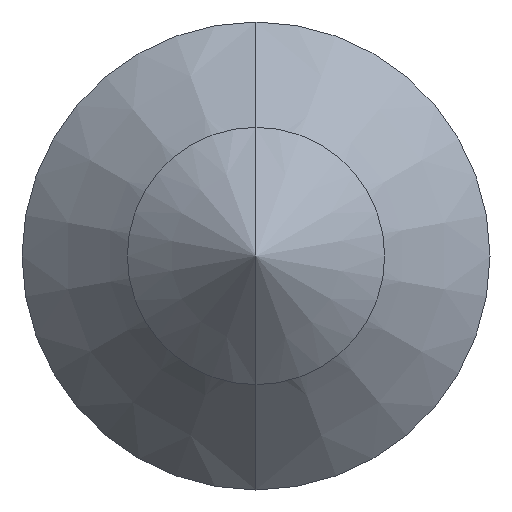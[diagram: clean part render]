
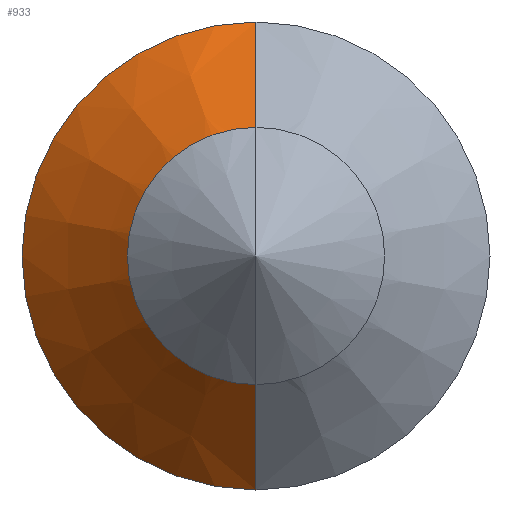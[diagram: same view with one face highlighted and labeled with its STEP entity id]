
A CAD part, left-side view. The second image highlights one B-rep face of the part: STEP entity #933.
In plain terms, the highlighted conical face has half-angle 45 degrees and reference radius 2 mm.
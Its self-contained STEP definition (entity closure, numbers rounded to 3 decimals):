
#39 = CARTESIAN_POINT ( 'NONE',  ( -7.251, 0., 2. ) ) ;
#46 = VECTOR ( 'NONE', #1109, 1000. ) ;
#76 = EDGE_LOOP ( 'NONE', ( #762, #357, #307, #779 ) ) ;
#104 = DIRECTION ( 'NONE',  ( 1., 0., 0. ) ) ;
#136 = EDGE_CURVE ( 'NONE', #641, #1108, #678, .T. ) ;
#173 = VERTEX_POINT ( 'NONE', #39 ) ;
#288 = AXIS2_PLACEMENT_3D ( 'NONE', #1017, #334, #1168 ) ;
#307 = ORIENTED_EDGE ( 'NONE', *, *, #1273, .T. ) ;
#308 = FACE_OUTER_BOUND ( 'NONE', #76, .T. ) ;
#334 = DIRECTION ( 'NONE',  ( -1., 0., 0. ) ) ;
#337 = CIRCLE ( 'NONE', #288, 0.9 ) ;
#357 = ORIENTED_EDGE ( 'NONE', *, *, #1015, .T. ) ;
#427 = CIRCLE ( 'NONE', #1323, 2. ) ;
#492 = DIRECTION ( 'NONE',  ( -1., 0., 0. ) ) ;
#586 = CONICAL_SURFACE ( 'NONE', #704, 2., 0.785 ) ;
#641 = VERTEX_POINT ( 'NONE', #1061 ) ;
#653 = DIRECTION ( 'NONE',  ( 0.707, 0., 0.707 ) ) ;
#678 = LINE ( 'NONE', #1486, #46 ) ;
#690 = DIRECTION ( 'NONE',  ( 0., 0., -1. ) ) ;
#704 = AXIS2_PLACEMENT_3D ( 'NONE', #1555, #104, #690 ) ;
#762 = ORIENTED_EDGE ( 'NONE', *, *, #1376, .F. ) ;
#779 = ORIENTED_EDGE ( 'NONE', *, *, #136, .F. ) ;
#871 = CARTESIAN_POINT ( 'NONE',  ( -7.251, 0., -2. ) ) ;
#903 = VERTEX_POINT ( 'NONE', #1548 ) ;
#933 = ADVANCED_FACE ( 'NONE', ( #308 ), #586, .T. ) ;
#1015 = EDGE_CURVE ( 'NONE', #903, #173, #1187, .T. ) ;
#1017 = CARTESIAN_POINT ( 'NONE',  ( -8.351, 0., 0. ) ) ;
#1061 = CARTESIAN_POINT ( 'NONE',  ( -8.351, 0., -0.9 ) ) ;
#1108 = VERTEX_POINT ( 'NONE', #871 ) ;
#1109 = DIRECTION ( 'NONE',  ( 0.707, 0., -0.707 ) ) ;
#1143 = VECTOR ( 'NONE', #653, 1000. ) ;
#1168 = DIRECTION ( 'NONE',  ( 0., 0., 1. ) ) ;
#1187 = LINE ( 'NONE', #1268, #1143 ) ;
#1221 = CARTESIAN_POINT ( 'NONE',  ( -7.251, 0., 0. ) ) ;
#1268 = CARTESIAN_POINT ( 'NONE',  ( -7.251, 0., 2. ) ) ;
#1273 = EDGE_CURVE ( 'NONE', #173, #1108, #427, .T. ) ;
#1323 = AXIS2_PLACEMENT_3D ( 'NONE', #1221, #492, #1338 ) ;
#1338 = DIRECTION ( 'NONE',  ( 0., 0., 1. ) ) ;
#1376 = EDGE_CURVE ( 'NONE', #903, #641, #337, .T. ) ;
#1486 = CARTESIAN_POINT ( 'NONE',  ( -7.251, 0., -2. ) ) ;
#1548 = CARTESIAN_POINT ( 'NONE',  ( -8.351, 0., 0.9 ) ) ;
#1555 = CARTESIAN_POINT ( 'NONE',  ( -7.251, 0., 0. ) ) ;
